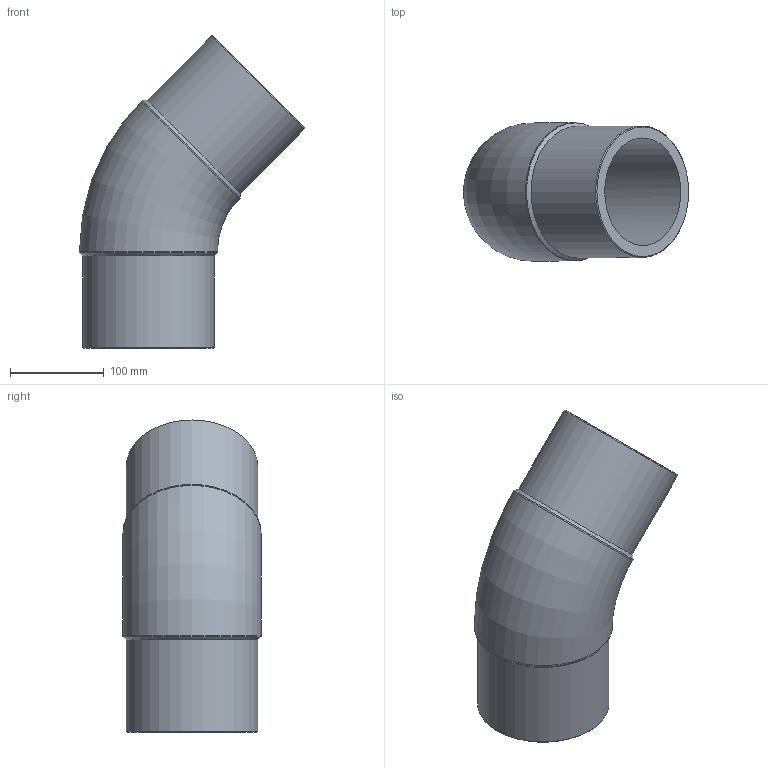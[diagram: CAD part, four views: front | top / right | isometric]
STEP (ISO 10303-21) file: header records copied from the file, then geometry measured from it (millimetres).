
FILE_DESCRIPTION(/* description */ ('Unknown'),/* implementation_level */ '2;1');
FILE_NAME(/* name */ 'G4P140C',/* time_stamp */ '2022-01-19T10:41:29+01:00',/* author */ ('Unknown'),/* organization */ ('Unknown'),/* preprocessor_version */ 'ST-DEVELOPER v18.1',/* originating_system */ 'Solid Edge',/* authorisation */ 'Unknown');
FILE_SCHEMA (('AUTOMOTIVE_DESIGN {1 0 10303 214 3 1 1}'));
Length unit declared in the file: millimetre
Products named in the file (1): G4P140C
Bounding box: 239.67 x 147 x 332.17 mm (x, y, z)
Volume: 1879895.5 mm3; surface area: 273932 mm2
Topology: 1 solids, 1 shells, 14 faces, 34 edges, 22 vertices
Faces by surface type: cylinder 6, cone 4, plane 2, torus 2
Full cylindrical faces by diameter (mm): 114.6 x2, 140 x2, 147 x2
Entity records: 370 total; most frequent: CARTESIAN_POINT 70, DIRECTION 60, ORIENTED_EDGE 38, AXIS2_PLACEMENT_3D 30, EDGE_LOOP 27, FACE_BOUND 27, EDGE_CURVE 19, VERTEX_POINT 18
